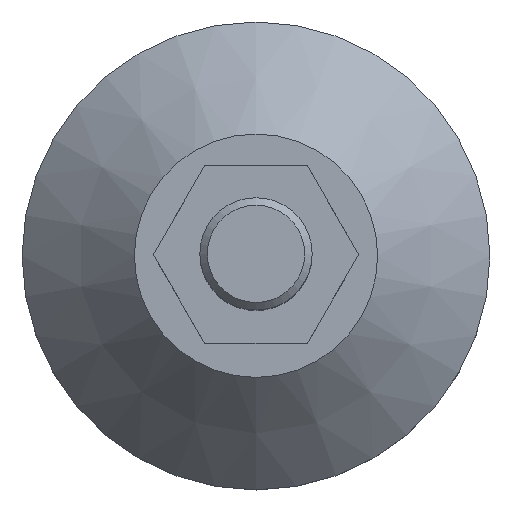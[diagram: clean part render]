
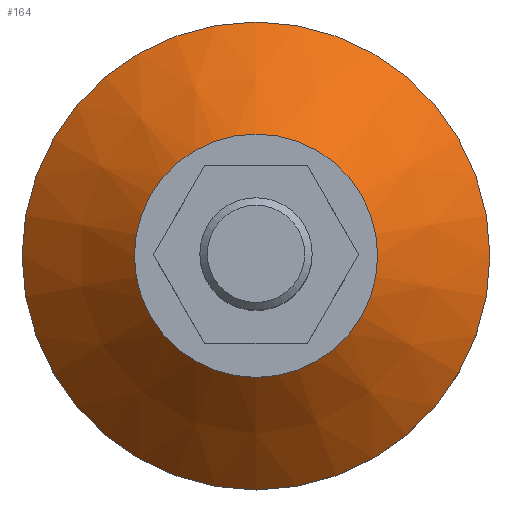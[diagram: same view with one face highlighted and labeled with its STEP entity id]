
A CAD part, top view. The second image highlights one B-rep face of the part: STEP entity #164.
In plain terms, the highlighted conical face has half-angle 45 degrees and reference radius 13 mm.
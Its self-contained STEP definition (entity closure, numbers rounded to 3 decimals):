
#164=ADVANCED_FACE('',(#297,#298),#299,.T.);
#297=FACE_OUTER_BOUND('',#421,.T.);
#298=FACE_BOUND('',#422,.T.);
#299=CONICAL_SURFACE('',#423,13.0,0.785);
#421=EDGE_LOOP('',(#608));
#422=EDGE_LOOP('',(#609));
#423=AXIS2_PLACEMENT_3D('',#610,#611,#612);
#608=ORIENTED_EDGE('',*,*,#763,.F.);
#609=ORIENTED_EDGE('',*,*,#707,.T.);
#610=CARTESIAN_POINT('',(25.0,21.0,25.0));
#611=DIRECTION('',(-0.0,-1.0,0.));
#612=DIRECTION('',(0.0,0.,-1.0));
#707=EDGE_CURVE('',#797,#797,#798,.T.);
#763=EDGE_CURVE('',#883,#883,#884,.T.);
#797=VERTEX_POINT('',#932);
#798=CIRCLE('',#933,13.0);
#883=VERTEX_POINT('',#1148);
#884=CIRCLE('',#1149,25.0);
#932=CARTESIAN_POINT('',(25.0,21.0,12.0));
#933=AXIS2_PLACEMENT_3D('',#1189,#1190,#1191);
#1148=CARTESIAN_POINT('',(25.0,9.,0.0));
#1149=AXIS2_PLACEMENT_3D('',#1239,#1240,#1241);
#1189=CARTESIAN_POINT('',(25.0,21.0,25.0));
#1190=DIRECTION('',(0.0,-1.0,0.));
#1191=DIRECTION('',(0.0,0.,-1.0));
#1239=CARTESIAN_POINT('',(25.0,9.,25.0));
#1240=DIRECTION('',(0.0,-1.0,0.));
#1241=DIRECTION('',(0.0,0.,-1.0));
